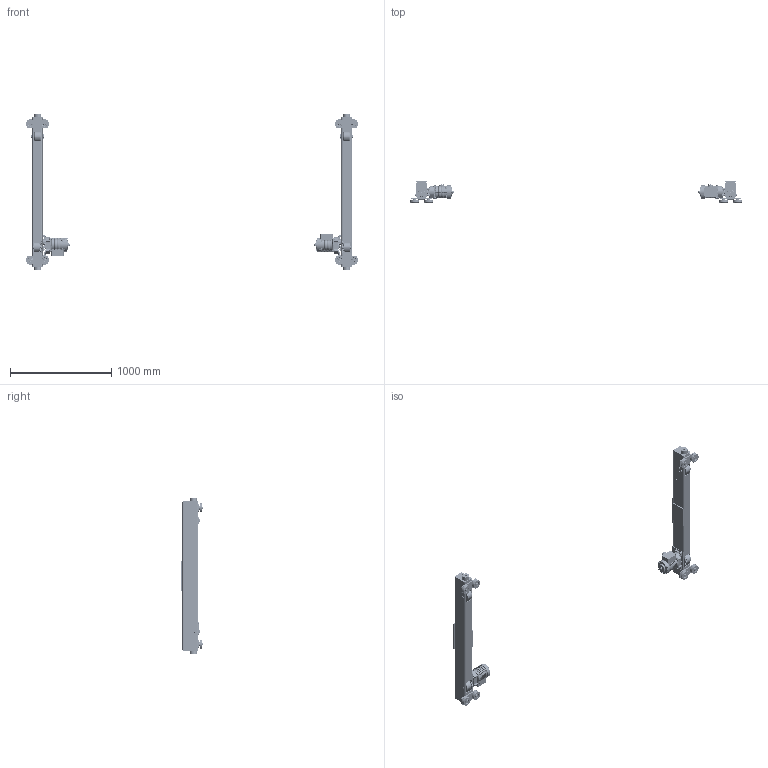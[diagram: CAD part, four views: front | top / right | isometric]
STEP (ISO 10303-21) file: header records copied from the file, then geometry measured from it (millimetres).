
FILE_DESCRIPTION (( 'STEP AP214' ), '1' );
FILE_NAME ('TMS-3-0135.STEP', '2026-08-10T19:28:10', ( '' ), ( '' ), 'SwSTEP 2.0', 'SolidWorks 2026', '' );
FILE_SCHEMA (( 'AUTOMOTIVE_DESIGN' ));
Length unit declared in the file: inch
Products named in the file (62): G1JE025S9401; G1JE025S9603; T600-400-004_57.125; G1JM025S_NORMAL; N6QO3101108_N6QO3101108; 9091254_9091254; 9093330_9093330; G1JE025S9609; 6240803; G1JE025S9301; 6240822; 9091273_9091273; 62393_6239301; G1JE025S9610; G1JM025S_ROTATED 180 DEGREES; N6QO310E9108_N6QO3101108 DOMESTIC; N6QL210207; N6QO3101102; N6Q0310E9102_Domestic; 6240823; 6240826; G1JE025S9303; MS555010_MS555010; 9091272_9091272; TMS-3-0135; 6240825; 9012514_9012514; 6240804; G1JE025S9310; N6QO3101101; G1JE025S9503; 62395_0135 - 25# RAIL; 62588; 9012707_9012707; 62394_6239401; G1JE025S9701; 6240806; 62587; 9093327_9093327; 9093101_9093101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
Assembly tree (212 placements, depth 4):
  TMS-3-0135
    62395_0135 - 25# RAIL
      62393_6239301
        T600-400-004_57.125
        6240822
        6240823
      6240806  x2
      6240817X_6240817A  x2
        6240805X_6240805A
        6232305
      6240813
      T7G117020
      6240802
      6240803
      6240804
    62396_0135 - 25# RAIL
      62394_6239401
        T600-400-004 sp_57.125
        6240822
        6240823
      6240806  x2
      6240813
      6240817X_6240817A  x2
        6240805X_6240805A
        6232305
      T7G117020
      6240802
      6240803
      6240804
    6240814  x4
    6240825  x2
    6240826  x2
    9012711_9012711  x18
    9093327_9093327  x6
    N6QL210207  x4
    9012514_9012514  x4
    9093101_9093101  x4
    N6QO3101108_N6QO3101108  x8
      N6QO310E9108_N6QO3101108 DOMESTIC
      9047252_9047252
      9000605
    6232404  x8
    9047125_B27.7M - 3AM1-23  x8
    N6QO3101102  x2
      N6Q0310E9102_Domestic
      9000705
    N6QO3101101  x2
      N6QO310E91012
      9000705
    G1JM025S_ROTATED 180 DEGREES
      G1JE025S9303
      G1JE025S9310
      G1JE025S9401
      G1JE025S9503
      G1JE025S9610
      G1JE025S9609
      G1JE025S9707
      G1JE025S9701
      G1JE025S9604
      G1JE025S9603
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Bounding box: 3275.41 x 207.96 x 1548.03 mm (x, y, z)
Volume: 20002488.7 mm3; surface area: 5309772.7 mm2
Topology: 218 solids, 282 shells, 15270 faces, 39454 edges, 25370 vertices
Faces by surface type: plane 8318, cylinder 3506, bspline 1802, torus 804, cone 654, sphere 186
Entity records: 164481 total; most frequent: CARTESIAN_POINT 67806, ORIENTED_EDGE 20268, DIRECTION 18830, EDGE_CURVE 10138, AXIS2_PLACEMENT_3D 7226, VERTEX_POINT 6454, EDGE_LOOP 4466, VECTOR 4378
